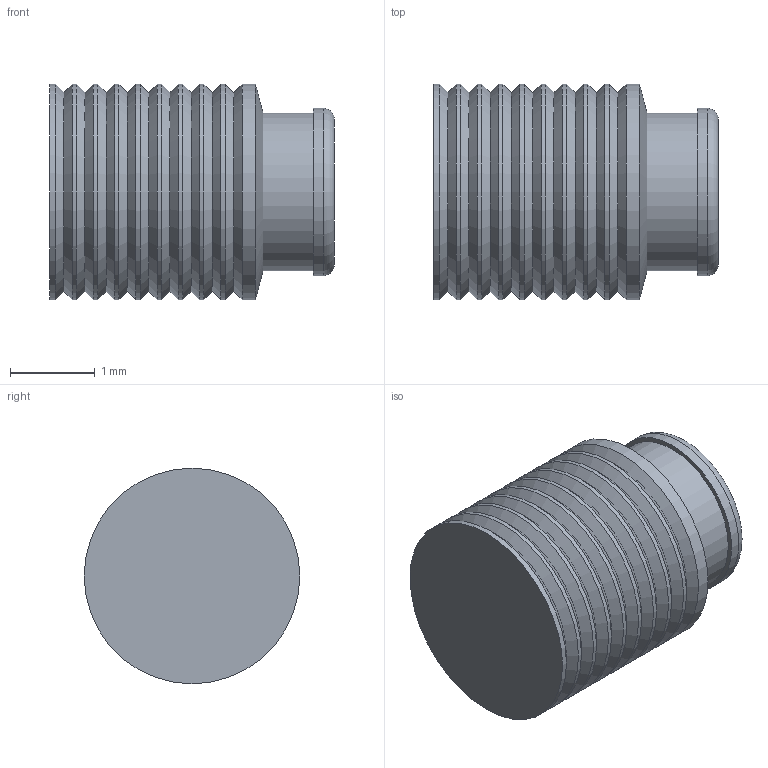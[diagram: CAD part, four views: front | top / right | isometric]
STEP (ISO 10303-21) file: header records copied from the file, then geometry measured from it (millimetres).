
FILE_DESCRIPTION(/* description */ ('LEE ORIFICE, 2.5mm, REVERSE, INSERT, GAS'),/* implementation_level */ '2;1');
FILE_NAME(/* name */ '\\absolute\smwork\Vernon\RIGR2551XXXS.stp',/* time_stamp */ '2022-07-01T09:43:19-04:00',/* author */ ('VernonJ'),/* organization */ (''),/* preprocessor_version */ 'ST-DEVELOPER v18.1',/* originating_system */ 'Autodesk Inventor 2020',/* authorisation */ '');
FILE_SCHEMA (('AUTOMOTIVE_DESIGN { 1 0 10303 214 3 1 1 }'));
Length unit declared in the file: millimetre
Products named in the file (1): RIGR2551XXXS
Bounding box: 3.35 x 2.54 x 2.54 mm (x, y, z)
Volume: 14.3 mm3; surface area: 40 mm2
Topology: 1 solids, 1 shells, 35 faces, 101 edges, 69 vertices
Faces by surface type: cone 19, cylinder 12, plane 3, torus 1
Full cylindrical faces by diameter (mm): 1.86 x1, 1.97 x1, 2.54 x10
Entity records: 1246 total; most frequent: DIRECTION 243, CARTESIAN_POINT 206, ORIENTED_EDGE 202, AXIS2_PLACEMENT_3D 106, EDGE_CURVE 101, CIRCLE 70, VERTEX_POINT 69, EDGE_LOOP 36
